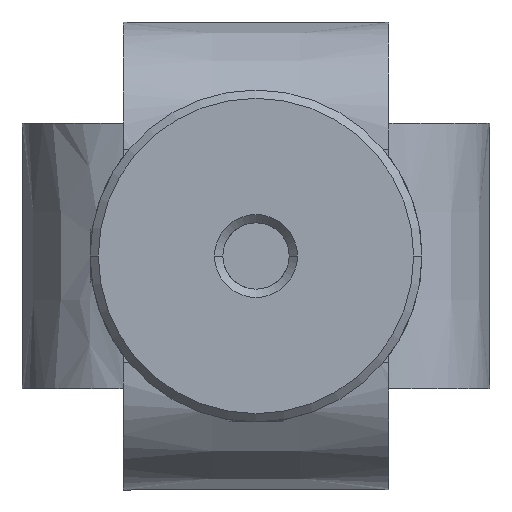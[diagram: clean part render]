
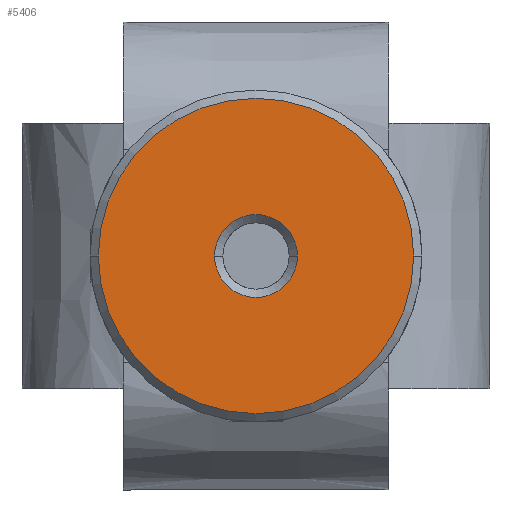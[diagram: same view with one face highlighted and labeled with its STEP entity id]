
A CAD part, front view. The second image highlights one B-rep face of the part: STEP entity #5406.
In plain terms, the highlighted planar face has unit normal (0, -1, 0).
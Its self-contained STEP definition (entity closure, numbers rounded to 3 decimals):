
#398 = CARTESIAN_POINT ( 'NONE',  ( -9.5, -35.24, 0. ) ) ;
#502 = CIRCLE ( 'NONE', #2406, 2.5 ) ;
#513 = EDGE_CURVE ( 'NONE', #5098, #2949, #502, .T. ) ;
#912 = ORIENTED_EDGE ( 'NONE', *, *, #7757, .T. ) ;
#1033 = EDGE_LOOP ( 'NONE', ( #7593, #1111 ) ) ;
#1047 = DIRECTION ( 'NONE',  ( 0., -1., 0. ) ) ;
#1104 = EDGE_LOOP ( 'NONE', ( #912, #3294 ) ) ;
#1111 = ORIENTED_EDGE ( 'NONE', *, *, #2623, .T. ) ;
#1185 = CARTESIAN_POINT ( 'NONE',  ( 2.5, -35.24, 0. ) ) ;
#1243 = VERTEX_POINT ( 'NONE', #1726 ) ;
#1486 = DIRECTION ( 'NONE',  ( -1., 0., 0. ) ) ;
#1706 = CIRCLE ( 'NONE', #5151, 9.5 ) ;
#1726 = CARTESIAN_POINT ( 'NONE',  ( 9.5, -35.24, 0. ) ) ;
#2124 = DIRECTION ( 'NONE',  ( 0., 1., 0. ) ) ;
#2294 = DIRECTION ( 'NONE',  ( 0., -1., 0. ) ) ;
#2406 = AXIS2_PLACEMENT_3D ( 'NONE', #2761, #2124, #2817 ) ;
#2623 = EDGE_CURVE ( 'NONE', #6532, #1243, #7330, .T. ) ;
#2706 = AXIS2_PLACEMENT_3D ( 'NONE', #7457, #3920, #1486 ) ;
#2761 = CARTESIAN_POINT ( 'NONE',  ( 0., -35.24, 0. ) ) ;
#2814 = CARTESIAN_POINT ( 'NONE',  ( -2.5, -35.24, 0. ) ) ;
#2817 = DIRECTION ( 'NONE',  ( -1., 0., 0. ) ) ;
#2830 = DIRECTION ( 'NONE',  ( -1., 0., 0. ) ) ;
#2949 = VERTEX_POINT ( 'NONE', #2814 ) ;
#3097 = DIRECTION ( 'NONE',  ( 0., 1., 0. ) ) ;
#3294 = ORIENTED_EDGE ( 'NONE', *, *, #513, .T. ) ;
#3553 = AXIS2_PLACEMENT_3D ( 'NONE', #6687, #3097, #4295 ) ;
#3920 = DIRECTION ( 'NONE',  ( 0., -1., 0. ) ) ;
#4015 = CIRCLE ( 'NONE', #3553, 2.5 ) ;
#4149 = EDGE_CURVE ( 'NONE', #1243, #6532, #1706, .T. ) ;
#4295 = DIRECTION ( 'NONE',  ( -1., 0., 0. ) ) ;
#4685 = DIRECTION ( 'NONE',  ( -1., 0., 0. ) ) ;
#5098 = VERTEX_POINT ( 'NONE', #1185 ) ;
#5151 = AXIS2_PLACEMENT_3D ( 'NONE', #6407, #2294, #2830 ) ;
#5406 = ADVANCED_FACE ( 'NONE', ( #7099, #7291 ), #6258, .T. ) ;
#6258 = PLANE ( 'NONE',  #2706 ) ;
#6407 = CARTESIAN_POINT ( 'NONE',  ( 0., -35.24, 0. ) ) ;
#6532 = VERTEX_POINT ( 'NONE', #398 ) ;
#6687 = CARTESIAN_POINT ( 'NONE',  ( 0., -35.24, 0. ) ) ;
#6895 = AXIS2_PLACEMENT_3D ( 'NONE', #7039, #1047, #4685 ) ;
#7039 = CARTESIAN_POINT ( 'NONE',  ( 0., -35.24, 0. ) ) ;
#7099 = FACE_BOUND ( 'NONE', #1104, .T. ) ;
#7291 = FACE_OUTER_BOUND ( 'NONE', #1033, .T. ) ;
#7330 = CIRCLE ( 'NONE', #6895, 9.5 ) ;
#7457 = CARTESIAN_POINT ( 'NONE',  ( 0., -35.24, 0. ) ) ;
#7593 = ORIENTED_EDGE ( 'NONE', *, *, #4149, .T. ) ;
#7757 = EDGE_CURVE ( 'NONE', #2949, #5098, #4015, .T. ) ;
